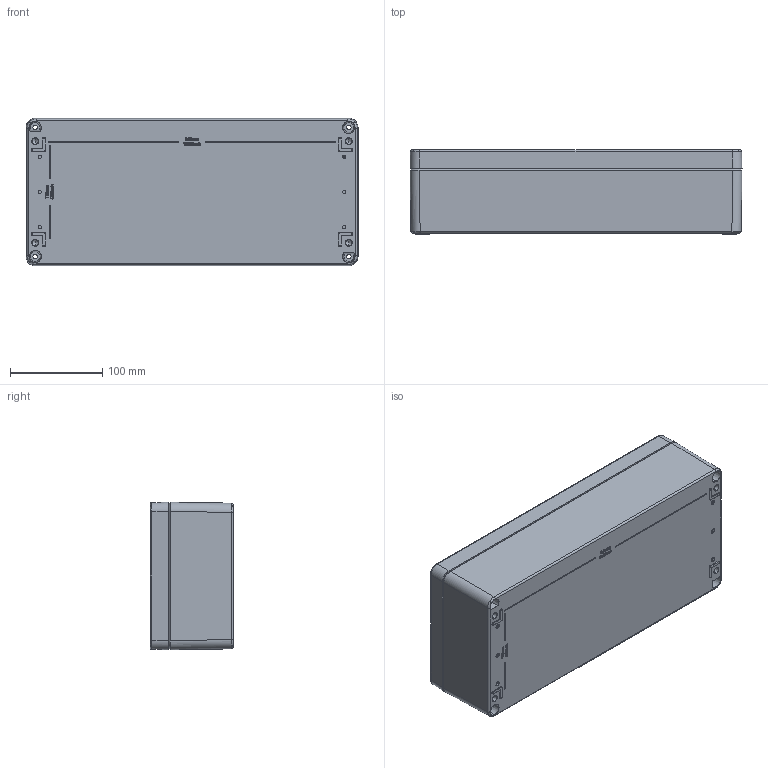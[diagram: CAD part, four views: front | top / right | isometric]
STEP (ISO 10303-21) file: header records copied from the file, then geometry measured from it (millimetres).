
FILE_DESCRIPTION (( 'STEP AP203' ), '1' );
FILE_NAME ('BB074.STEP', '2024-12-24T03:53:54', ( '' ), ( '' ), 'SwSTEP 2.0', 'SolidWorks 2019', '' );
FILE_SCHEMA (( 'CONFIG_CONTROL_DESIGN' ));
Length unit declared in the file: millimetre
Products named in the file (3): HOUSING _160X360X91; BB074; COVER_160X360X91
Assembly tree (2 placements, depth 2):
  BB074
    HOUSING _160X360X91
    COVER_160X360X91
Bounding box: 360 x 91 x 160 mm (x, y, z)
Volume: 974570.9 mm3; surface area: 427655.8 mm2
Topology: 2 solids, 2 shells, 2615 faces, 5822 edges, 3093 vertices
Faces by surface type: bspline 985, cylinder 768, plane 416, sphere 191, cone 135, torus 120
Entity records: 117367 total; most frequent: CARTESIAN_POINT 67992, ORIENTED_EDGE 11214, DIRECTION 8498, EDGE_CURVE 5607, AXIS2_PLACEMENT_3D 3336, VERTEX_POINT 3093, EDGE_LOOP 2748, FACE_OUTER_BOUND 2615
